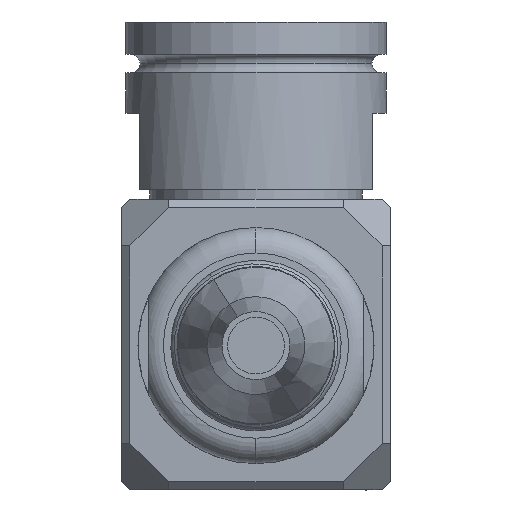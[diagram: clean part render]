
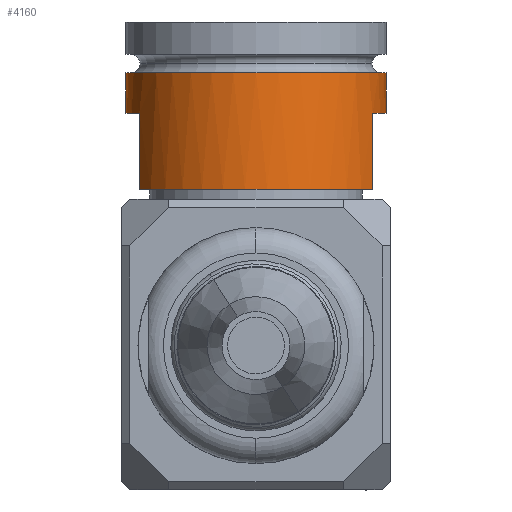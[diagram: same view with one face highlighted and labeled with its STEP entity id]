
A CAD part, front view. The second image highlights one B-rep face of the part: STEP entity #4160.
In plain terms, the highlighted cylindrical face has radius 16.294 mm (diameter 32.588 mm), a partial arc.
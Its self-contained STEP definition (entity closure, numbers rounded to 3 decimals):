
#109 = DIRECTION ( 'NONE',  ( -1., 0., 0. ) ) ;
#119 = EDGE_CURVE ( 'NONE', #4138, #2404, #7373, .T. ) ;
#170 = ORIENTED_EDGE ( 'NONE', *, *, #119, .F. ) ;
#404 = CARTESIAN_POINT ( 'NONE',  ( 0., 0., 2.108 ) ) ;
#550 = LINE ( 'NONE', #4718, #1402 ) ;
#1233 = CARTESIAN_POINT ( 'NONE',  ( -16.294, 0., 2.108 ) ) ;
#1257 = EDGE_CURVE ( 'NONE', #2404, #5286, #1384, .T. ) ;
#1307 = ORIENTED_EDGE ( 'NONE', *, *, #5409, .T. ) ;
#1384 = LINE ( 'NONE', #8378, #7874 ) ;
#1402 = VECTOR ( 'NONE', #2188, 1000. ) ;
#1508 = CARTESIAN_POINT ( 'NONE',  ( -14.605, -7.224, -12.497 ) ) ;
#1786 = ORIENTED_EDGE ( 'NONE', *, *, #3920, .F. ) ;
#2188 = DIRECTION ( 'NONE',  ( 0., 0., -1. ) ) ;
#2250 = CIRCLE ( 'NONE', #7629, 16.294 ) ;
#2290 = DIRECTION ( 'NONE',  ( 1., 0., 0. ) ) ;
#2404 = VERTEX_POINT ( 'NONE', #10152 ) ;
#2503 = CARTESIAN_POINT ( 'NONE',  ( -14.605, -7.224, -2.972 ) ) ;
#2582 = CARTESIAN_POINT ( 'NONE',  ( 0., 0., -2.972 ) ) ;
#2602 = EDGE_CURVE ( 'NONE', #2990, #9401, #5765, .T. ) ;
#2683 = DIRECTION ( 'NONE',  ( 0., 0., -1. ) ) ;
#2807 = ORIENTED_EDGE ( 'NONE', *, *, #3577, .F. ) ;
#2839 = CYLINDRICAL_SURFACE ( 'NONE', #4414, 16.294 ) ;
#2990 = VERTEX_POINT ( 'NONE', #5946 ) ;
#3238 = DIRECTION ( 'NONE',  ( 0., 0., -1. ) ) ;
#3577 = EDGE_CURVE ( 'NONE', #6886, #4138, #550, .T. ) ;
#3665 = AXIS2_PLACEMENT_3D ( 'NONE', #8135, #6554, #9754 ) ;
#3786 = CARTESIAN_POINT ( 'NONE',  ( 14.605, -7.224, -12.497 ) ) ;
#3876 = LINE ( 'NONE', #7033, #5881 ) ;
#3920 = EDGE_CURVE ( 'NONE', #2990, #9562, #7444, .T. ) ;
#4138 = VERTEX_POINT ( 'NONE', #10100 ) ;
#4160 = ADVANCED_FACE ( 'NONE', ( #6098 ), #2839, .T. ) ;
#4414 = AXIS2_PLACEMENT_3D ( 'NONE', #4526, #2683, #5889 ) ;
#4454 = EDGE_LOOP ( 'NONE', ( #1307, #7379, #1786, #6615, #6666, #10128, #170, #2807 ) ) ;
#4526 = CARTESIAN_POINT ( 'NONE',  ( 0., 0., 8.458 ) ) ;
#4718 = CARTESIAN_POINT ( 'NONE',  ( 16.294, 0., 8.458 ) ) ;
#5286 = VERTEX_POINT ( 'NONE', #3786 ) ;
#5376 = CIRCLE ( 'NONE', #6719, 16.294 ) ;
#5409 = EDGE_CURVE ( 'NONE', #6886, #8225, #2250, .T. ) ;
#5451 = DIRECTION ( 'NONE',  ( 0., 0., -1. ) ) ;
#5765 = LINE ( 'NONE', #2503, #6628 ) ;
#5793 = DIRECTION ( 'NONE',  ( 0., 0., -1. ) ) ;
#5881 = VECTOR ( 'NONE', #5451, 1000. ) ;
#5889 = DIRECTION ( 'NONE',  ( 1., 0., 0. ) ) ;
#5946 = CARTESIAN_POINT ( 'NONE',  ( -14.605, -7.224, -2.972 ) ) ;
#6015 = DIRECTION ( 'NONE',  ( 0., 0., -1. ) ) ;
#6098 = FACE_OUTER_BOUND ( 'NONE', #4454, .T. ) ;
#6270 = AXIS2_PLACEMENT_3D ( 'NONE', #2582, #5793, #109 ) ;
#6554 = DIRECTION ( 'NONE',  ( 0., 0., -1. ) ) ;
#6615 = ORIENTED_EDGE ( 'NONE', *, *, #2602, .T. ) ;
#6628 = VECTOR ( 'NONE', #3238, 1000. ) ;
#6666 = ORIENTED_EDGE ( 'NONE', *, *, #10097, .F. ) ;
#6719 = AXIS2_PLACEMENT_3D ( 'NONE', #9551, #8767, #2290 ) ;
#6886 = VERTEX_POINT ( 'NONE', #10172 ) ;
#7033 = CARTESIAN_POINT ( 'NONE',  ( -16.294, 0., 8.458 ) ) ;
#7373 = CIRCLE ( 'NONE', #3665, 16.294 ) ;
#7379 = ORIENTED_EDGE ( 'NONE', *, *, #10083, .T. ) ;
#7444 = CIRCLE ( 'NONE', #6270, 16.294 ) ;
#7481 = CARTESIAN_POINT ( 'NONE',  ( -16.294, 0., -2.972 ) ) ;
#7629 = AXIS2_PLACEMENT_3D ( 'NONE', #404, #9979, #7728 ) ;
#7728 = DIRECTION ( 'NONE',  ( 1., 0., 0. ) ) ;
#7874 = VECTOR ( 'NONE', #6015, 1000. ) ;
#8135 = CARTESIAN_POINT ( 'NONE',  ( 0., 0., -2.972 ) ) ;
#8225 = VERTEX_POINT ( 'NONE', #1233 ) ;
#8378 = CARTESIAN_POINT ( 'NONE',  ( 14.605, -7.224, -2.972 ) ) ;
#8767 = DIRECTION ( 'NONE',  ( 0., 0., -1. ) ) ;
#9401 = VERTEX_POINT ( 'NONE', #1508 ) ;
#9551 = CARTESIAN_POINT ( 'NONE',  ( 0., 0., -12.497 ) ) ;
#9562 = VERTEX_POINT ( 'NONE', #7481 ) ;
#9754 = DIRECTION ( 'NONE',  ( 1., 0., 0. ) ) ;
#9979 = DIRECTION ( 'NONE',  ( 0., 0., -1. ) ) ;
#10083 = EDGE_CURVE ( 'NONE', #8225, #9562, #3876, .T. ) ;
#10097 = EDGE_CURVE ( 'NONE', #5286, #9401, #5376, .T. ) ;
#10100 = CARTESIAN_POINT ( 'NONE',  ( 16.294, 0., -2.972 ) ) ;
#10128 = ORIENTED_EDGE ( 'NONE', *, *, #1257, .F. ) ;
#10152 = CARTESIAN_POINT ( 'NONE',  ( 14.605, -7.224, -2.972 ) ) ;
#10172 = CARTESIAN_POINT ( 'NONE',  ( 16.294, 0., 2.108 ) ) ;
